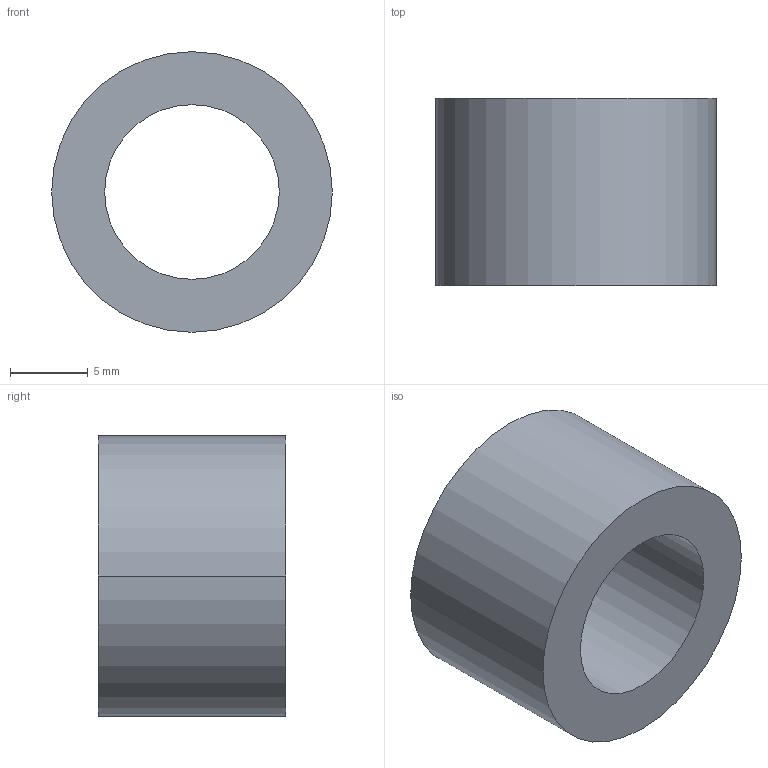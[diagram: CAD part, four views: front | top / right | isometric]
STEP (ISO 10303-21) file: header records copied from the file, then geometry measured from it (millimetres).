
FILE_DESCRIPTION (( 'STEP AP203' ), '1' );
FILE_NAME ('30800.WPP18E11.2.step', '2019-01-23T22:36:54', ( '' ), ( '' ), 'SwSTEP 2.0', 'SolidWorks 2017', '' );
FILE_SCHEMA (( 'CONFIG_CONTROL_DESIGN' ));
Length unit declared in the file: millimetre
Products named in the file (1): 30800.WPP18E11.2
Bounding box: 18 x 12 x 18 mm (x, y, z)
Volume: 1838.8 mm3; surface area: 1384.3 mm2
Topology: 1 solids, 1 shells, 8 faces, 16 edges, 10 vertices
Faces by surface type: cylinder 4, torus 2, plane 2
Entity records: 297 total; most frequent: DIRECTION 46, CARTESIAN_POINT 35, ORIENTED_EDGE 32, AXIS2_PLACEMENT_3D 21, EDGE_CURVE 16, CIRCLE 12, VERTEX_POINT 10, EDGE_LOOP 10
